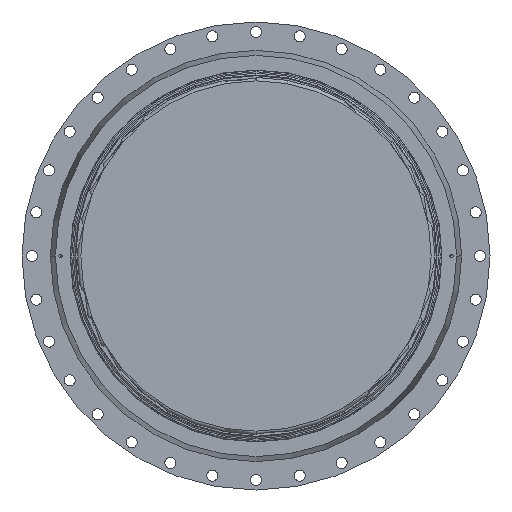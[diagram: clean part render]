
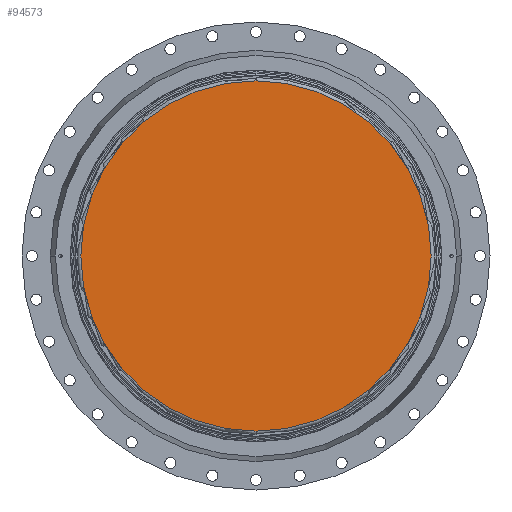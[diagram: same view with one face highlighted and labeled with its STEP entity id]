
A CAD part, front view. The second image highlights one B-rep face of the part: STEP entity #94573.
In plain terms, the highlighted planar face has unit normal (0, -1, 0).
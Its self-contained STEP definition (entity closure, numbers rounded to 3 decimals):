
#4503 = AXIS2_PLACEMENT_3D ( 'NONE', #28801, #98851, #38823 ) ;
#24794 = EDGE_CURVE ( 'NONE', #105044, #54695, #53481, .T. ) ;
#25374 = DIRECTION ( 'NONE',  ( 0., -1., 0. ) ) ;
#26549 = ORIENTED_EDGE ( 'NONE', *, *, #44288, .T. ) ;
#28801 = CARTESIAN_POINT ( 'NONE',  ( 0., -1390.1, 0. ) ) ;
#31935 = AXIS2_PLACEMENT_3D ( 'NONE', #100023, #39984, #110062 ) ;
#38823 = DIRECTION ( 'NONE',  ( 0., 0., 1. ) ) ;
#39984 = DIRECTION ( 'NONE',  ( 0., 1., 0. ) ) ;
#44288 = EDGE_CURVE ( 'NONE', #54695, #105044, #56727, .T. ) ;
#51967 = AXIS2_PLACEMENT_3D ( 'NONE', #85322, #25374, #95408 ) ;
#53481 = CIRCLE ( 'NONE', #4503, 524. ) ;
#54695 = VERTEX_POINT ( 'NONE', #114726 ) ;
#56727 = CIRCLE ( 'NONE', #51967, 524. ) ;
#57126 = CARTESIAN_POINT ( 'NONE',  ( 0., -1390.1, 524. ) ) ;
#79732 = ORIENTED_EDGE ( 'NONE', *, *, #24794, .T. ) ;
#85322 = CARTESIAN_POINT ( 'NONE',  ( 0., -1390.1, 0. ) ) ;
#94573 = ADVANCED_FACE ( 'NONE', ( #129545 ), #119708, .F. ) ;
#95408 = DIRECTION ( 'NONE',  ( 0., 0., 1. ) ) ;
#98851 = DIRECTION ( 'NONE',  ( 0., -1., 0. ) ) ;
#100023 = CARTESIAN_POINT ( 'NONE',  ( 524., -1390.1, 500000. ) ) ;
#105044 = VERTEX_POINT ( 'NONE', #57126 ) ;
#110062 = DIRECTION ( 'NONE',  ( -1., 0., 0. ) ) ;
#114726 = CARTESIAN_POINT ( 'NONE',  ( 0., -1390.1, -524. ) ) ;
#119708 = PLANE ( 'NONE',  #31935 ) ;
#120534 = EDGE_LOOP ( 'NONE', ( #79732, #26549 ) ) ;
#129545 = FACE_OUTER_BOUND ( 'NONE', #120534, .T. ) ;
